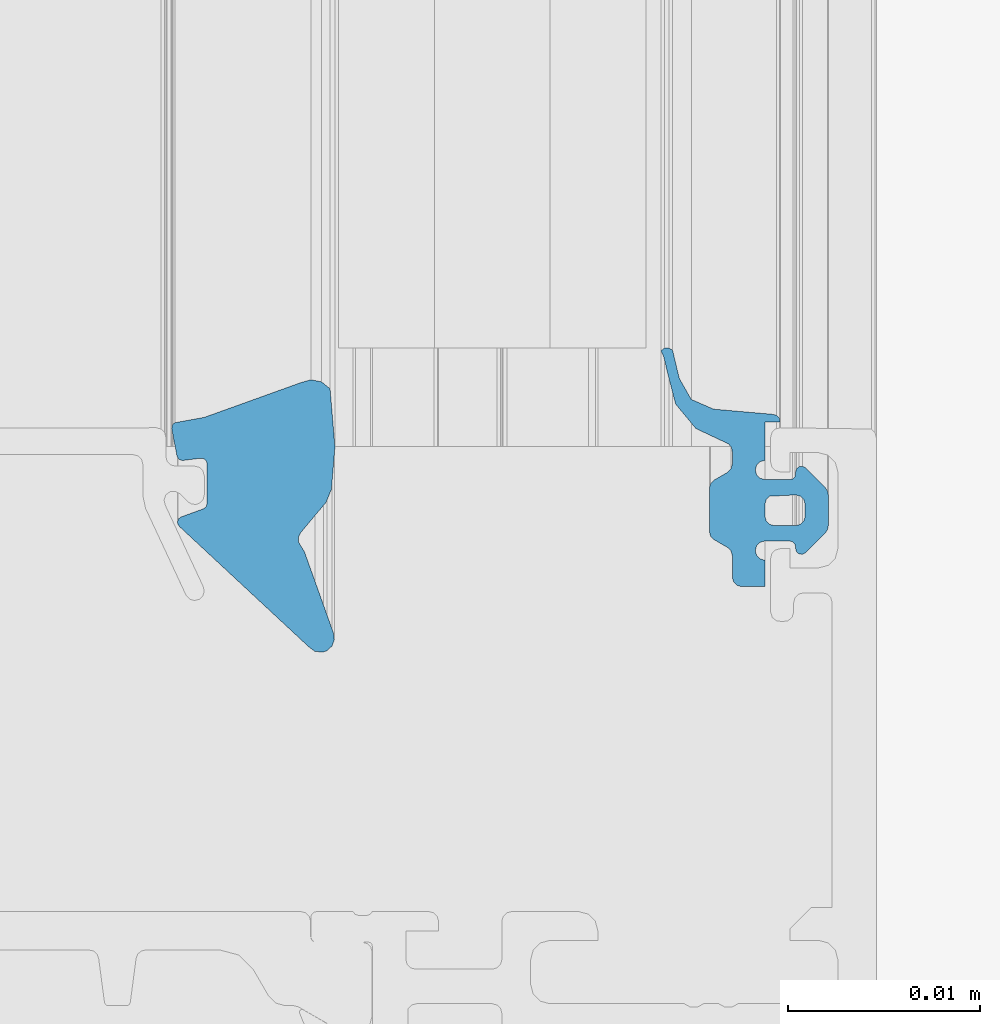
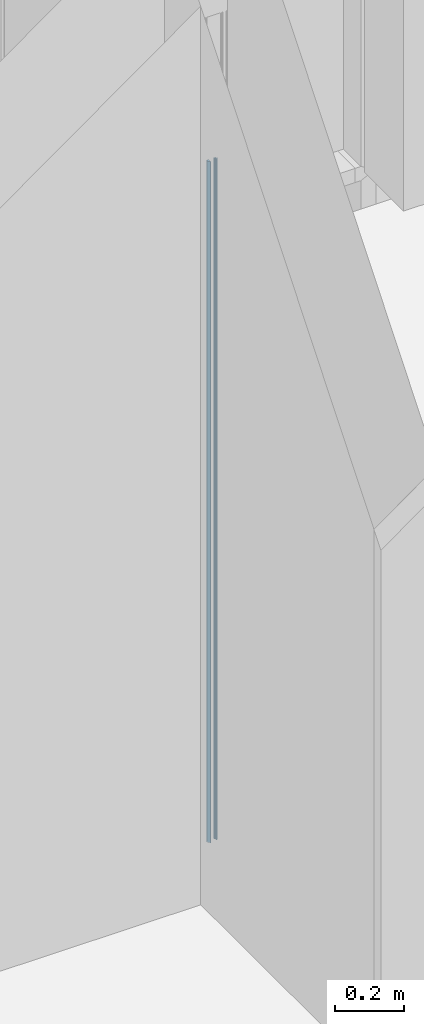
# One storey, part 15 of 62: 1 building element part, 2 elements without a shape of their own.
"""IFC2X3 building model written with IfcOpenShell, lengths in millimetres."""

import ifcopenshell
import ifcopenshell.guid

model = None  # the IFC model being written
_history = None  # IfcOwnerHistory: only IFC2X3 demands one
_inside = {}  # id of a spatial element -> (the spatial element, [elements in it])
_under = {}  # id of a project, library or spatial element -> (it, [spatial elements below it])
_declared = {}  # id of a project -> (the project, [libraries it declares])
_typed = {}  # id of a type object -> (the type object, [elements of that type])
_made_of = {}  # id of a material, layer set ... -> (it, [elements and type objects made of it])


def new_model(schema):
    """Start an empty IFC model of exactly this schema.

    Asked for "IFC4X3", IfcOpenShell would pick the latest addendum, in which some entities
    have other attributes; the version numbers below select the first issue.
    IFC2X3 requires an IfcOwnerHistory on every rooted entity: one is made here for all.
    """
    global model, _history
    if schema == "IFC4X3":
        model = ifcopenshell.file(schema_version=(4, 3, 0, 0))
    else:
        model = ifcopenshell.file(schema=schema)
    _inside.clear()
    _under.clear()
    _declared.clear()
    _typed.clear()
    _made_of.clear()
    _history = None
    if model.schema == "IFC2X3":
        org = make("IfcOrganization", Name="unknown")
        user = make(
            "IfcPersonAndOrganization",
            ThePerson=make("IfcPerson", FamilyName="unknown"),
            TheOrganization=org,
        )
        app = make(
            "IfcApplication",
            ApplicationDeveloper=org,
            Version="unknown",
            ApplicationFullName="unknown",
            ApplicationIdentifier="unknown",
        )
        _history = make(
            "IfcOwnerHistory",
            OwningUser=user,
            OwningApplication=app,
            ChangeAction="ADDED",
            CreationDate=0,
        )
    return model


def make(cls, **values):
    """One entity of the class cls with the attributes given. An attribute that is None is left unset."""
    return model.create_entity(
        cls, **{name: value for name, value in values.items() if value is not None}
    )


def entity(cls, *values):
    """Any entity or typed value of the class cls, its attributes in the order of the schema. None: left unset."""
    e = model.create_entity(cls)
    for i, value in enumerate(values):
        if value is not None:
            e[i] = value
    return e


def rooted(cls, **values):
    """An entity with a GlobalId (a new one), such as an element, a storey or a relation."""
    return make(cls, GlobalId=ifcopenshell.guid.new(), OwnerHistory=_history, **values)


def si_unit(unit_type, name, prefix=None):
    """IfcSIUnit, for example si_unit("LENGTHUNIT", "METRE", prefix="MILLI")."""
    return make("IfcSIUnit", UnitType=unit_type, Prefix=prefix, Name=name)


def converted_unit(unit_type, name, factor, base, dimensions=None, offset=None):
    """IfcConversionBasedUnit, such as the inch: factor (a typed value) times the base unit."""
    return make(
        "IfcConversionBasedUnit"
        if offset is None
        else "IfcConversionBasedUnitWithOffset",
        ConversionOffset=offset,
        Dimensions=None
        if dimensions is None
        else entity("IfcDimensionalExponents", *dimensions),
        UnitType=unit_type,
        Name=name,
        ConversionFactor=make(
            "IfcMeasureWithUnit", ValueComponent=factor, UnitComponent=base
        ),
    )


def derived_unit(unit_type, elements):
    """IfcDerivedUnit: a product of units, each with its exponent."""
    return make(
        "IfcDerivedUnit",
        Elements=[
            make("IfcDerivedUnitElement", Unit=unit, Exponent=power)
            for unit, power in elements
        ],
        UnitType=unit_type,
    )


def money_unit(currency):
    """IfcMonetaryUnit."""
    return make("IfcMonetaryUnit", Currency=currency)


def assignment(units):
    """IfcUnitAssignment: the units of a project."""
    return None if units is None else make("IfcUnitAssignment", Units=units)


def point(xyz):
    """IfcCartesianPoint."""
    return None if xyz is None else make("IfcCartesianPoint", Coordinates=xyz)


def direction(xyz):
    """IfcDirection."""
    return None if xyz is None else make("IfcDirection", DirectionRatios=xyz)


def frame(location, z_axis=None, x_axis=None):
    """IfcAxis2Placement3D, a coordinate frame: its origin and axes. An axis left out is left unset."""
    return make(
        "IfcAxis2Placement3D",
        Location=point(location),
        Axis=direction(z_axis),
        RefDirection=direction(x_axis),
    )


def origin_with_axes():
    """The frame at (0, 0, 0) with the z axis (0, 0, 1) and the x axis (1, 0, 0) written out."""
    return frame((0.0, 0.0, 0.0), z_axis=(0.0, 0.0, 1.0), x_axis=(1.0, 0.0, 0.0))


def place(relative_to, where):
    """IfcLocalPlacement: puts the frame where relative to a parent placement (None: the world)."""
    return make(
        "IfcLocalPlacement", PlacementRelTo=relative_to, RelativePlacement=where
    )


def context(
    kind, dimensions, precision=None, world=None, true_north=None, identifier=None
):
    """IfcGeometricRepresentationContext, for example the 3D "Model" context."""
    return make(
        "IfcGeometricRepresentationContext",
        ContextIdentifier=identifier,
        ContextType=kind,
        CoordinateSpaceDimension=dimensions,
        Precision=precision,
        WorldCoordinateSystem=world,
        TrueNorth=true_north,
    )


def subcontext(parent, identifier, kind, view, scale=None):
    """IfcGeometricRepresentationSubContext, for example "Body" below "Model"."""
    return make(
        "IfcGeometricRepresentationSubContext",
        ContextIdentifier=identifier,
        ContextType=kind,
        ParentContext=parent,
        TargetScale=scale,
        TargetView=view,
    )


def project(units=None, contexts=None):
    """IfcProject with its units and contexts."""
    return rooted(
        "IfcProject",
        Name="project",
        RepresentationContexts=contexts,
        UnitsInContext=assignment(units),
    )


def spatial(cls, under=None, at=None, **own):
    """A site, building, storey or space (cls), placed at a placement, below another one or the project."""
    s = rooted(cls, ObjectPlacement=at, **own)
    if under is not None:
        _under.setdefault(under.id(), (under, []))[1].append(s)
    return s


def faces_of(points, faces, orient=None, outer=None):
    """IfcFace entities. A face is a list of loops; a loop is a list of indices into points, from 0.

    orient and outer hold one flag for each loop. By default every Orientation is true, the
    first loop of a face is its IfcFaceOuterBound and the others are IfcFaceBound.
    """
    made = []
    for i, loops in enumerate(faces):
        bounds = []
        for j, loop in enumerate(loops):
            is_outer = j == 0 if outer is None else outer[i][j]
            bounds.append(
                make(
                    "IfcFaceOuterBound" if is_outer else "IfcFaceBound",
                    Bound=make("IfcPolyLoop", Polygon=[points[k] for k in loop]),
                    Orientation=True if orient is None else orient[i][j],
                )
            )
        made.append(make("IfcFace", Bounds=bounds))
    return made


def faceted_brep(points, faces, orient=None, outer=None, voids=None):
    """IfcFacetedBrep: a solid bounded by flat faces; with voids (closed shells), ...WithVoids."""
    shared = [point(p) for p in points]
    hull = make("IfcClosedShell", CfsFaces=faces_of(shared, faces, orient, outer))
    if voids is None:
        return make("IfcFacetedBrep", Outer=hull)
    return make(
        "IfcFacetedBrepWithVoids",
        Outer=hull,
        Voids=[
            make(cls, CfsFaces=faces_of(shared, fs, o, b)) for cls, fs, o, b in voids
        ],
    )


def shape(context_of_items, identifier, shape_type, items):
    """IfcShapeRepresentation: the items that make up one representation, for example the "Body"."""
    return make(
        "IfcShapeRepresentation",
        ContextOfItems=context_of_items,
        RepresentationIdentifier=identifier,
        RepresentationType=shape_type,
        Items=items,
    )


def source(mapping_origin, context_of_items, identifier, shape_type, items):
    """IfcRepresentationMap: a shape defined once, which mapped items show again and again."""
    return make(
        "IfcRepresentationMap",
        MappingOrigin=mapping_origin,
        MappedRepresentation=shape(context_of_items, identifier, shape_type, items),
    )


def transform(
    local_origin,
    x_axis=None,
    y_axis=None,
    z_axis=None,
    scale=None,
    scale2=None,
    scale3=None,
    uniform=True,
):
    """IfcCartesianTransformationOperator3D, or its non-uniform kind. x_axis, y_axis, z_axis: its Axis1, 2, 3."""
    if uniform:
        return make(
            "IfcCartesianTransformationOperator3D",
            Axis1=direction(x_axis),
            Axis2=direction(y_axis),
            LocalOrigin=point(local_origin),
            Scale=scale,
            Axis3=direction(z_axis),
        )
    return make(
        "IfcCartesianTransformationOperator3DnonUniform",
        Axis1=direction(x_axis),
        Axis2=direction(y_axis),
        LocalOrigin=point(local_origin),
        Scale=scale,
        Axis3=direction(z_axis),
        Scale2=scale2,
        Scale3=scale3,
    )


def mapped(mapping_source, mapping_target):
    """IfcMappedItem: shows the shape of a source again, moved by a transform."""
    return make(
        "IfcMappedItem", MappingSource=mapping_source, MappingTarget=mapping_target
    )


def material(Name=None, Category=None):
    """IfcMaterial."""
    return make("IfcMaterial", Name=Name, Category=Category)


def made_of(thing, what):
    """Note that an element or type object is made of a material, layer set ...; save() writes the relation."""
    if what is not None:
        _made_of.setdefault(what.id(), (what, []))[1].append(thing)
    return thing


def type_object(cls, material=None, **own):
    """A type object (cls), such as IfcWallType, which elements share."""
    return made_of(rooted(cls, **own), material)


def element(
    cls,
    number,
    at=None,
    inside=None,
    cuts=None,
    type_object=None,
    material=None,
    context=None,
    identifier="Body",
    shape_type=None,
    held_by="IfcProductDefinitionShape",
    body=None,
    shapes=None,
    **own,
):
    """One element of the class cls, such as IfcWall. Its Tag is "e" and its number.

    at: its placement. inside: the storey or other place that contains it. cuts: it is an
    opening in that element (IfcRelVoidsElement). A single representation is given by context,
    identifier, shape_type and body (its items); several are given by shapes. held_by: the class
    of the entity that holds the representations. save() writes the other relations.
    """
    e = rooted(cls, Tag="e%d" % number, ObjectPlacement=at, **own)
    if body is not None:
        shapes = [shape(context, identifier, shape_type, body)]
    if shapes is not None:
        e.Representation = make(held_by, Representations=shapes)
    if inside is not None:
        _inside.setdefault(inside.id(), (inside, []))[1].append(e)
    if cuts is not None:
        rooted(
            "IfcRelVoidsElement", RelatingBuildingElement=cuts, RelatedOpeningElement=e
        )
    if type_object is not None:
        _typed.setdefault(type_object.id(), (type_object, []))[1].append(e)
    return made_of(e, material)


def aggregate(whole, parts):
    """IfcRelAggregates: a whole, such as a stair, and the parts it consists of."""
    return rooted("IfcRelAggregates", RelatingObject=whole, RelatedObjects=parts)


def save(model, path):
    """Write the relations noted so far, then the file.

    IfcRelAggregates (storeys below a building ...), IfcRelContainedInSpatialStructure (elements
    in a storey), IfcRelDefinesByType, IfcRelAssociatesMaterial and IfcRelDeclares: one each for
    every whole, place, type object, material and project.
    """
    for whole, parts in _under.values():
        aggregate(whole, parts)
    for where, things in _inside.values():
        rooted(
            "IfcRelContainedInSpatialStructure",
            RelatedElements=things,
            RelatingStructure=where,
        )
    for kind, things in _typed.values():
        rooted("IfcRelDefinesByType", RelatedObjects=things, RelatingType=kind)
    for what, things in _made_of.values():
        rooted("IfcRelAssociatesMaterial", RelatedObjects=things, RelatingMaterial=what)
    for by, libraries in _declared.values():
        rooted("IfcRelDeclares", RelatingContext=by, RelatedDefinitions=libraries)
    model.write(path)


model = new_model("IFC2X3")

# Units and contexts
model_context = context("Model", 3, precision=0.01, world=origin_with_axes(), true_north=direction((0.0, 1.0)))
body_context = subcontext(model_context, "Body", "Model", "MODEL_VIEW")
ifc_project = project(units=[si_unit("LENGTHUNIT", "METRE", prefix="MILLI"), si_unit("AREAUNIT", "SQUARE_METRE"), si_unit("VOLUMEUNIT", "CUBIC_METRE"), converted_unit("PLANEANGLEUNIT", "DEGREE", entity("IfcPlaneAngleMeasure", 0.0174532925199), si_unit("PLANEANGLEUNIT", "RADIAN"), dimensions=[0, 0, 0, 0, 0, 0, 0]), si_unit("SOLIDANGLEUNIT", "STERADIAN"), money_unit("EUR"), converted_unit("TIMEUNIT", "Year", entity("IfcTimeMeasure", 31556926.0), si_unit("TIMEUNIT", "SECOND"), dimensions=[0, 0, 1, 0, 0, 0, 0]), si_unit("MASSUNIT", "GRAM", prefix="KILO"), si_unit("THERMODYNAMICTEMPERATUREUNIT", "DEGREE_CELSIUS"), si_unit("LUMINOUSINTENSITYUNIT", "LUMEN"), si_unit("ENERGYUNIT", "JOULE", prefix="MEGA"), derived_unit("THERMALCONDUCTANCEUNIT", [(si_unit("POWERUNIT", "WATT"), 1), (si_unit("LENGTHUNIT", "METRE"), -1), (si_unit("THERMODYNAMICTEMPERATUREUNIT", "KELVIN"), -1)]), derived_unit("SPECIFICHEATCAPACITYUNIT", [(si_unit("ENERGYUNIT", "JOULE"), 1), (si_unit("MASSUNIT", "GRAM", prefix="KILO"), -1), (si_unit("THERMODYNAMICTEMPERATUREUNIT", "KELVIN"), -1)]), derived_unit("MASSDENSITYUNIT", [(si_unit("MASSUNIT", "GRAM", prefix="KILO"), 1), (si_unit("VOLUMEUNIT", "CUBIC_METRE"), -1)])], contexts=[model_context])

# Site, building, storey
site_placement = place(None, origin_with_axes())
site = spatial("IfcSite", under=ifc_project, at=site_placement, Name="Puškini 31, Narva", CompositionType="ELEMENT")
building_placement = place(site_placement, origin_with_axes())
building = spatial("IfcBuilding", under=site, at=building_placement, Name="Narva Riigigümnaasium", CompositionType="ELEMENT")
storey_placement = place(building_placement, frame((0.0, 0.0, 660.0), z_axis=(0.0, 0.0, 1.0), x_axis=(1.0, 0.0, 0.0)))
storey = spatial("IfcBuildingStorey", under=building, at=storey_placement, Name="2.korrus +0.66", CompositionType="ELEMENT", Elevation=660.0)

# Curtain wall, member, building element part
curtain_wall_type = type_object("IfcCurtainWallType", Name="Curtain Wall Type", PredefinedType="NOTDEFINED")
curtain_wall_placement = place(storey_placement, frame((34855.0128096, 223200.000065, -2.45869393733e-05), z_axis=(0.0, 0.0, 1.0), x_axis=(1.0, 0.0, 0.0)))
curtain_wall = element("IfcCurtainWall", 1, at=curtain_wall_placement, inside=storey, type_object=curtain_wall_type, Name="G-SKLF-50")
member_type = type_object("IfcMemberType", Name="61 x 45", PredefinedType="MULLION")
member_placement = place(curtain_wall_placement, frame((-0.00823391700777, -1920.0120369, 0.0), z_axis=(0.0, 5.89838098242e-09, 1.0), x_axis=(4.28847155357e-06, 0.999999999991, -5.89838098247e-09)))
member = element("IfcMember", 2, at=member_placement, type_object=member_type, Name="G-SKLF-52-raam", ObjectType="MULLION")
aggregate(curtain_wall, [member])
ifc_material = material(Name="Membraan - Veekindel")
shared_shape = source(origin_with_axes(), body_context, "Body", "Brep", [
    faceted_brep([(-61.0413385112, 34.3890442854, 0.0), (-61.0413385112, 34.3890442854, 2400.00002477), (-59.5800222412, 34.73794757, 2400.00002477), (-59.5800222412, 34.73794757, 0.0), (-61.1536677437, 34.1934467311, 0.0), (-61.1536677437, 34.1934467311, 2400.00002477), (-61.1423164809, 33.9681748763, 2400.00002477), (-61.0108941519, 33.784859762, 2400.00002477), (-60.7381535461, 33.9217644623, 2400.00002477), (-59.8409257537, 34.1343131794, 2400.00002477), (-58.2346494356, 34.5489145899, 2400.00002477), (-56.9567944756, 35.6067920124, 2400.00002477), (-56.2495873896, 37.1074172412, 2400.00002477), (-56.1542959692, 37.3107917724, 2400.00002477), (-55.9795989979, 37.4519392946, 2400.00002477), (-55.7607444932, 37.5023809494, 2400.00002477), (-55.1093263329, 37.5023809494, 2400.00002477), (-54.8593263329, 37.4353936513, 2400.00002477), (-54.676313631, 37.2523809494, 2400.00002477), (-54.2721684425, 36.5523809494, 2400.00002477), (-54.0891557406, 36.3693682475, 2400.00002477), (-53.8391557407, 36.3023809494, 2400.00002477), (-51.602145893, 36.3023809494, 2400.00002477), (-51.352145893, 36.3693682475, 2400.00002477), (-51.1691331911, 36.5523809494, 2400.00002477), (-50.7649880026, 37.2523809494, 2400.00002477), (-50.5819753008, 37.4353936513, 2400.00002477), (-50.3319753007, 37.5023809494, 2400.00002477), (-49.2206527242, 37.5023809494, 2400.00002477), (-48.9706527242, 37.5693682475, 2400.00002477), (-48.7876400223, 37.7523809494, 2400.00002477), (-48.7206527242, 38.0023809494, 2400.00002477), (-48.7206527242, 39.1999494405, 2400.00002477), (-50.10004, 39.1999494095, 2400.00002477), (-50.1670287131, 38.9499497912, 2400.00002477), (-50.3500424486, 38.7669381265, 2400.00002477), (-50.6000428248, 38.699952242, 2400.00002477), (-50.8500424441, 38.7669409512, 2400.00002477), (-51.0330541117, 38.9499546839, 2400.00002477), (-51.10004, 39.1999550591, 2400.00002477), (-51.10004, 40.4999366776, 2400.00002477), (-51.0598476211, 40.6499366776, 2400.00002477), (-50.95004, 40.7597442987, 2400.00002477), (-50.80004, 40.7999366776, 2400.00002477), (-50.7000457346, 40.7999366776, 2400.00002477), (-50.5334025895, 40.8504763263, 2400.00002477), (-50.4229059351, 40.9850671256, 2400.00002477), (-50.4057850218, 41.1583618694, 2400.00002477), (-50.4878083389, 41.3119729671, 2400.00002477), (-51.5281601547, 42.3533311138, 2400.00002477), (-51.6904310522, 42.4618421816, 2400.00002477), (-51.8818844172, 42.4999486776, 2400.00002477), (-53.517932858, 42.4999486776, 2400.00002477), (-53.7093558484, 42.4618547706, 2400.00002477), (-53.8716106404, 42.3533776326, 2400.00002477), (-54.9122350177, 41.3120206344, 2400.00002477), (-54.9942836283, 41.1584047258, 2400.00002477), (-54.9771753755, 40.9850924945, 2400.00002477), (-54.866675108, 40.850483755, 2400.00002477), (-54.7000173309, 40.7999366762, 2400.00002477), (-54.6000210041, 40.7999366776, 2400.00002477), (-54.4500210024, 40.7597443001, 2400.00002477), (-54.3402133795, 40.6499366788, 2400.00002477), (-54.300021, 40.4999366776, 2400.00002477), (-54.300021, 39.1999606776, 2400.00002477), (-54.3670082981, 38.9499606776, 2400.00002477), (-54.5500210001, 38.7669479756, 2400.00002477), (-54.8000210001, 38.6999606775, 2400.00002477), (-55.0500210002, 38.7669479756, 2400.00002477), (-55.2330337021, 38.9499606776, 2400.00002477), (-55.3000210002, 39.1999606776, 2400.00002477), (-57.3000022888, 39.1999494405, 2400.00002477), (-57.3000022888, 39.9999846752, 2400.00002477), (-57.5000161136, 39.946391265, 2400.00002477), (-57.6464370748, 39.799971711, 2400.00002477), (-57.7000324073, 39.5999584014, 2400.00002477), (-57.9693613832, 36.5265882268, 2400.00002477), (-58.4755028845, 35.3628499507, 2400.00002477), (-53.5000340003, 40.7999553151, 2400.00002477), (-53.4330491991, 41.0499459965, 2400.00002477), (-53.2500433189, 41.2329518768, 2400.00002477), (-53.0000526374, 41.299936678, 2400.00002477), (-52.4000083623, 41.299936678, 2400.00002477), (-52.150017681, 41.2329518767, 2400.00002477), (-51.9670118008, 41.0499459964, 2400.00002477), (-51.9000269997, 40.799955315, 2400.00002477), (-51.9000269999, 39.6999268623, 2400.00002477), (-51.9670129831, 39.4499317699, 2400.00002477), (-52.1500220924, 39.2669226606, 2400.00002477), (-52.4000171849, 39.1999366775, 2400.00002477), (-53.0000438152, 39.1999366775, 2400.00002477), (-53.2500389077, 39.2669226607, 2400.00002477), (-53.433048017, 39.44993177, 2400.00002477), (-58.4755028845, 35.3628499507, 0.0), (-57.9693613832, 36.5265882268, 0.0), (-57.7000324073, 39.5999584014, 0.0), (-57.6464370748, 39.799971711, 0.0), (-57.5000161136, 39.946391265, 0.0), (-57.3000022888, 39.9999846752, 0.0), (-57.3000022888, 39.1999494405, 0.0), (-55.3000210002, 39.1999606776, 0.0), (-55.2330337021, 38.9499606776, 0.0), (-55.0500210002, 38.7669479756, 0.0), (-54.8000210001, 38.6999606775, 0.0), (-54.5500210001, 38.7669479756, 0.0), (-54.3670082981, 38.9499606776, 0.0), (-54.300021, 39.1999606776, 0.0), (-54.300021, 40.4999366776, 0.0), (-54.3402133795, 40.6499366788, 0.0), (-54.4500210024, 40.7597443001, 0.0), (-54.6000210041, 40.7999366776, 0.0), (-54.7000173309, 40.7999366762, 0.0), (-54.866675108, 40.850483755, 0.0), (-54.9771753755, 40.9850924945, 0.0), (-54.9942836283, 41.1584047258, 0.0), (-54.9122350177, 41.3120206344, 0.0), (-53.8716106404, 42.3533776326, 0.0), (-53.7093558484, 42.4618547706, 0.0), (-53.517932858, 42.4999486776, 0.0), (-51.8818844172, 42.4999486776, 0.0), (-51.6904310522, 42.4618421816, 0.0), (-51.5281601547, 42.3533311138, 0.0), (-50.4878083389, 41.3119729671, 0.0), (-50.4057850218, 41.1583618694, 0.0), (-50.4229059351, 40.9850671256, 0.0), (-50.5334025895, 40.8504763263, 0.0), (-50.7000457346, 40.7999366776, 0.0), (-50.80004, 40.7999366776, 0.0), (-50.95004, 40.7597442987, 0.0), (-51.0598476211, 40.6499366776, 0.0), (-51.10004, 40.4999366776, 0.0), (-51.10004, 39.1999550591, 0.0), (-51.0330541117, 38.9499546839, 0.0), (-50.8500424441, 38.7669409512, 0.0), (-50.6000428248, 38.699952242, 0.0), (-50.3500424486, 38.7669381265, 0.0), (-50.1670287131, 38.9499497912, 0.0), (-50.10004, 39.1999494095, 0.0), (-48.7206527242, 39.1999494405, 0.0), (-48.7206527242, 38.0023809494, 0.0), (-48.7876400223, 37.7523809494, 0.0), (-48.9706527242, 37.5693682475, 0.0), (-49.2206527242, 37.5023809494, 0.0), (-50.3319753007, 37.5023809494, 0.0), (-50.5819753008, 37.4353936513, 0.0), (-50.7649880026, 37.2523809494, 0.0), (-51.1691331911, 36.5523809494, 0.0), (-51.352145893, 36.3693682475, 0.0), (-51.602145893, 36.3023809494, 0.0), (-53.8391557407, 36.3023809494, 0.0), (-54.0891557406, 36.3693682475, 0.0), (-54.2721684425, 36.5523809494, 0.0), (-54.676313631, 37.2523809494, 0.0), (-54.8593263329, 37.4353936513, 0.0), (-55.1093263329, 37.5023809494, 0.0), (-55.7607444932, 37.5023809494, 0.0), (-55.9795989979, 37.4519392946, 0.0), (-56.1542959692, 37.3107917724, 0.0), (-56.2495873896, 37.1074172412, 0.0), (-56.9567944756, 35.6067920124, 0.0), (-58.2346494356, 34.5489145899, 0.0), (-59.8409257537, 34.1343131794, 0.0), (-60.7381535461, 33.9217644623, 0.0), (-61.0108941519, 33.784859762, 0.0), (-61.1423164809, 33.9681748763, 0.0), (-53.5000340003, 40.7999553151, 0.0), (-53.433048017, 39.44993177, 0.0), (-53.2500389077, 39.2669226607, 0.0), (-53.0000438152, 39.1999366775, 0.0), (-52.4000171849, 39.1999366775, 0.0), (-52.1500220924, 39.2669226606, 0.0), (-51.9670129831, 39.4499317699, 0.0), (-51.9000269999, 39.6999268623, 0.0), (-51.9000269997, 40.799955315, 0.0), (-51.9670118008, 41.0499459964, 0.0), (-52.150017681, 41.2329518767, 0.0), (-52.4000083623, 41.299936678, 0.0), (-53.0000526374, 41.299936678, 0.0), (-53.2500433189, 41.2329518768, 0.0), (-53.4330491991, 41.0499459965, 0.0)], [[[0, 1, 2, 3]], [[4, 5, 1, 0]], [[1, 5, 6, 7, 8, 9, 10, 11, 12, 13, 14, 15, 16, 17, 18, 19, 20, 21, 22, 23, 24, 25, 26, 27, 28, 29, 30, 31, 32, 33, 34, 35, 36, 37, 38, 39, 40, 41, 42, 43, 44, 45, 46, 47, 48, 49, 50, 51, 52, 53, 54, 55, 56, 57, 58, 59, 60, 61, 62, 63, 64, 65, 66, 67, 68, 69, 70, 71, 72, 73, 74, 75, 76, 77, 2], [78, 79, 80, 81, 82, 83, 84, 85, 86, 87, 88, 89, 90, 91, 92]], [[3, 2, 77, 93]], [[0, 3, 93, 94, 95, 96, 97, 98, 99, 100, 101, 102, 103, 104, 105, 106, 107, 108, 109, 110, 111, 112, 113, 114, 115, 116, 117, 118, 119, 120, 121, 122, 123, 124, 125, 126, 127, 128, 129, 130, 131, 132, 133, 134, 135, 136, 137, 138, 139, 140, 141, 142, 143, 144, 145, 146, 147, 148, 149, 150, 151, 152, 153, 154, 155, 156, 157, 158, 159, 160, 161, 162, 163, 164, 4], [165, 166, 167, 168, 169, 170, 171, 172, 173, 174, 175, 176, 177, 178, 179]], [[164, 6, 5, 4]], [[163, 7, 6, 164]], [[162, 8, 7, 163]], [[161, 9, 8, 162]], [[160, 10, 9, 161]], [[159, 11, 10, 160]], [[158, 12, 11, 159]], [[157, 13, 12, 158]], [[156, 14, 13, 157]], [[155, 15, 14, 156]], [[154, 16, 15, 155]], [[153, 17, 16, 154]], [[152, 18, 17, 153]], [[151, 19, 18, 152]], [[150, 20, 19, 151]], [[149, 21, 20, 150]], [[148, 22, 21, 149]], [[147, 23, 22, 148]], [[146, 24, 23, 147]], [[145, 25, 24, 146]], [[144, 26, 25, 145]], [[143, 27, 26, 144]], [[142, 28, 27, 143]], [[141, 29, 28, 142]], [[140, 30, 29, 141]], [[139, 31, 30, 140]], [[138, 32, 31, 139]], [[137, 33, 32, 138]], [[136, 34, 33, 137]], [[135, 35, 34, 136]], [[134, 36, 35, 135]], [[133, 37, 36, 134]], [[132, 38, 37, 133]], [[131, 39, 38, 132]], [[130, 40, 39, 131]], [[129, 41, 40, 130]], [[128, 42, 41, 129]], [[127, 43, 42, 128]], [[126, 44, 43, 127]], [[125, 45, 44, 126]], [[124, 46, 45, 125]], [[123, 47, 46, 124]], [[122, 48, 47, 123]], [[121, 49, 48, 122]], [[120, 50, 49, 121]], [[119, 51, 50, 120]], [[118, 52, 51, 119]], [[117, 53, 52, 118]], [[116, 54, 53, 117]], [[115, 55, 54, 116]], [[114, 56, 55, 115]], [[113, 57, 56, 114]], [[112, 58, 57, 113]], [[111, 59, 58, 112]], [[110, 60, 59, 111]], [[109, 61, 60, 110]], [[108, 62, 61, 109]], [[107, 63, 62, 108]], [[106, 64, 63, 107]], [[105, 65, 64, 106]], [[104, 66, 65, 105]], [[103, 67, 66, 104]], [[102, 68, 67, 103]], [[101, 69, 68, 102]], [[100, 70, 69, 101]], [[99, 71, 70, 100]], [[98, 72, 71, 99]], [[97, 73, 72, 98]], [[96, 74, 73, 97]], [[95, 75, 74, 96]], [[94, 76, 75, 95]], [[93, 77, 76, 94]], [[179, 79, 78, 165]], [[178, 80, 79, 179]], [[177, 81, 80, 178]], [[176, 82, 81, 177]], [[175, 83, 82, 176]], [[174, 84, 83, 175]], [[173, 85, 84, 174]], [[172, 86, 85, 173]], [[171, 87, 86, 172]], [[170, 88, 87, 171]], [[169, 89, 88, 170]], [[168, 90, 89, 169]], [[167, 91, 90, 168]], [[166, 92, 91, 167]], [[165, 78, 92, 166]]]),
    faceted_brep([(-59.0307115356, 16.554149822, 0.0), (-59.0307115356, 16.554149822, 2400.00002477), (-55.9926715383, 16.8063498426, 2400.00002477), (-55.9926715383, 16.8063498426, 0.0), (-59.3884652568, 16.1092618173, 0.0), (-59.3884652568, 16.1092618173, 2400.00002477), (-59.5001582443, 15.5494067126, 2400.00002477), (-59.3405112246, 15.0012955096, 2400.00002477), (-57.5418652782, 10.0035930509, 2400.00002477), (-57.2632233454, 8.46932121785, 2400.00002477), (-57.1824204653, 8.36745448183, 2400.00002477), (-57.0661058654, 8.3093438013, 2400.00002477), (-56.9361285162, 8.30590490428, 2400.00002477), (-55.5361285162, 8.57803733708, 2400.00002477), (-55.4168250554, 8.62997353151, 2400.00002477), (-55.3307332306, 8.72753828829, 2400.00002477), (-55.2940485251, 8.85237785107, 2400.00002477), (-55.4099827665, 9.81272116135, 2400.00002477), (-55.3838261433, 9.9780831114, 2400.00002477), (-55.2731258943, 10.1036784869, 2400.00002477), (-55.1123574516, 10.1503930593, 2400.00002477), (-53.0580290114, 10.1503930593, 2400.00002477), (-52.8859560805, 10.0961386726, 2400.00002477), (-52.7761212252, 9.95299910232, 2400.00002477), (-52.3556584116, 8.79778701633, 2400.00002477), (-52.2574645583, 8.66326410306, 2400.00002477), (-52.1026310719, 8.60190419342, 2400.00002477), (-51.938943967, 8.6326446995, 2400.00002477), (-51.8169217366, 8.74599822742, 2400.00002477), (-45.6142070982, 15.4144760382, 2400.00002477), (-45.3418968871, 15.7688623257, 2400.00002477), (-45.3195226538, 16.2152275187, 2400.00002477), (-45.3889077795, 16.3899097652, 2400.00002477), (-45.6241929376, 16.6482027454, 2400.00002477), (-45.950966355, 16.7718696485, 2400.00002477), (-46.298307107, 16.7340705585, 2400.00002477), (-50.5536994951, 15.2121179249, 2400.00002477), (-50.8437237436, 15.0307134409, 2400.00002477), (-51.0558924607, 14.9074036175, 2400.00002477), (-51.3011765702, 14.8998814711, 2400.00002477), (-51.5205025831, 15.0099586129, 2400.00002477), (-53.1225200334, 16.3483062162, 2400.00002477), (-53.7899070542, 16.6230039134, 2400.00002477), (-53.7899070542, 16.6230039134, 0.0), (-53.1225200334, 16.3483062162, 0.0), (-51.5205025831, 15.0099586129, 0.0), (-51.3011765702, 14.8998814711, 0.0), (-51.0558924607, 14.9074036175, 0.0), (-50.8437237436, 15.0307134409, 0.0), (-50.5536994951, 15.2121179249, 0.0), (-46.298307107, 16.7340705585, 0.0), (-45.950966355, 16.7718696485, 0.0), (-45.6241929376, 16.6482027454, 0.0), (-45.3889077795, 16.3899097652, 0.0), (-45.3195226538, 16.2152275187, 0.0), (-45.3418968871, 15.7688623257, 0.0), (-45.6142070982, 15.4144760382, 0.0), (-51.8169217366, 8.74599822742, 0.0), (-51.938943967, 8.6326446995, 0.0), (-52.1026310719, 8.60190419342, 0.0), (-52.2574645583, 8.66326410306, 0.0), (-52.3556584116, 8.79778701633, 0.0), (-52.7761212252, 9.95299910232, 0.0), (-52.8859560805, 10.0961386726, 0.0), (-53.0580290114, 10.1503930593, 0.0), (-55.1123574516, 10.1503930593, 0.0), (-55.2731258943, 10.1036784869, 0.0), (-55.3838261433, 9.9780831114, 0.0), (-55.4099827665, 9.81272116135, 0.0), (-55.2940485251, 8.85237785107, 0.0), (-55.3307332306, 8.72753828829, 0.0), (-55.4168250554, 8.62997353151, 0.0), (-55.5361285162, 8.57803733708, 0.0), (-56.9361285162, 8.30590490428, 0.0), (-57.0661058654, 8.3093438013, 0.0), (-57.1824204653, 8.36745448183, 0.0), (-57.2632233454, 8.46932121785, 0.0), (-57.5418652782, 10.0035930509, 0.0), (-59.3405112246, 15.0012955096, 0.0), (-59.5001582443, 15.5494067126, 0.0)], [[[0, 1, 2, 3]], [[4, 5, 1, 0]], [[1, 5, 6, 7, 8, 9, 10, 11, 12, 13, 14, 15, 16, 17, 18, 19, 20, 21, 22, 23, 24, 25, 26, 27, 28, 29, 30, 31, 32, 33, 34, 35, 36, 37, 38, 39, 40, 41, 42, 2]], [[3, 2, 42, 43]], [[0, 3, 43, 44, 45, 46, 47, 48, 49, 50, 51, 52, 53, 54, 55, 56, 57, 58, 59, 60, 61, 62, 63, 64, 65, 66, 67, 68, 69, 70, 71, 72, 73, 74, 75, 76, 77, 78, 79, 4]], [[79, 6, 5, 4]], [[78, 7, 6, 79]], [[77, 8, 7, 78]], [[76, 9, 8, 77]], [[75, 10, 9, 76]], [[74, 11, 10, 75]], [[73, 12, 11, 74]], [[72, 13, 12, 73]], [[71, 14, 13, 72]], [[70, 15, 14, 71]], [[69, 16, 15, 70]], [[68, 17, 16, 69]], [[67, 18, 17, 68]], [[66, 19, 18, 67]], [[65, 20, 19, 66]], [[64, 21, 20, 65]], [[63, 22, 21, 64]], [[62, 23, 22, 63]], [[61, 24, 23, 62]], [[60, 25, 24, 61]], [[59, 26, 25, 60]], [[58, 27, 26, 59]], [[57, 28, 27, 58]], [[56, 29, 28, 57]], [[55, 30, 29, 56]], [[54, 31, 30, 55]], [[53, 32, 31, 54]], [[52, 33, 32, 53]], [[51, 34, 33, 52]], [[50, 35, 34, 51]], [[49, 36, 35, 50]], [[48, 37, 36, 49]], [[47, 38, 37, 48]], [[46, 39, 38, 47]], [[45, 40, 39, 46]], [[44, 41, 40, 45]], [[43, 42, 41, 44]]]),
])
building_element_part_placement = place(member_placement, origin_with_axes())
building_element_part = element("IfcBuildingElementPart", 3, at=building_element_part_placement, material=ifc_material, Name="Membraan - Veekindel", context=body_context, shape_type="MappedRepresentation", body=[
    mapped(shared_shape, transform((0.0, 0.0, 0.0), x_axis=(-1.0, 0.0, -5.89838098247e-09), y_axis=(0.0, -1.0, 0.0), z_axis=(-5.89838098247e-09, 0.0, 1.0))),
])
aggregate(member, [building_element_part])

save(model, "model.ifc")
